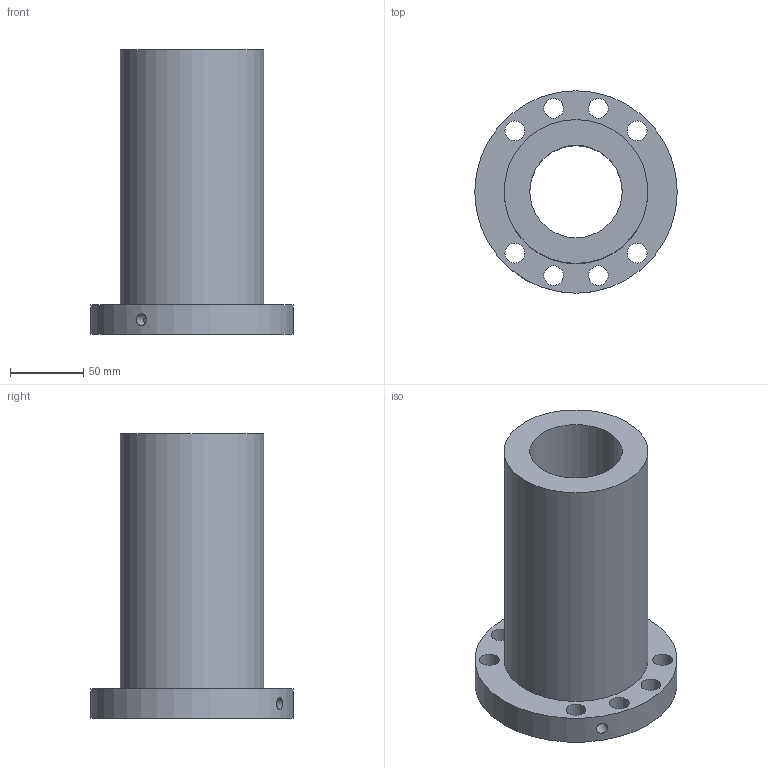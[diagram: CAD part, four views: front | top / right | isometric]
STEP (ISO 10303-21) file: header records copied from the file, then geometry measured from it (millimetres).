
FILE_DESCRIPTION(/* description */ (''),/* implementation_level */ '2;1');
FILE_NAME(/* name */ '63-12K5_7938',/* time_stamp */ '2007-10-15T12:53:53+08:00',/* author */ (''),/* organization */ (''),/* preprocessor_version */ 'ST-DEVELOPER v11',/* originating_system */ 'UGS - NX 5.0',/* authorisation */ '');
FILE_SCHEMA (('CONFIG_CONTROL_DESIGN'));
Length unit declared in the file: millimetre
Products named in the file (1): 63-12K5_7938
Bounding box: 138 x 138 x 194 mm (x, y, z)
Volume: 982691.4 mm3; surface area: 129526.2 mm2
Topology: 1 solids, 1 shells, 17 faces, 40 edges, 27 vertices
Faces by surface type: cylinder 13, plane 4
Full cylindrical faces by diameter (mm): 6 x1, 8 x1, 13.5 x8, 63 x1, 98 x1, 138 x1
Entity records: 668 total; most frequent: CARTESIAN_POINT 184, DIRECTION 84, FACE_BOUND 52, EDGE_LOOP 52, ORIENTED_EDGE 52, AXIS2_PLACEMENT_3D 42, VERTEX_POINT 26, EDGE_CURVE 26
